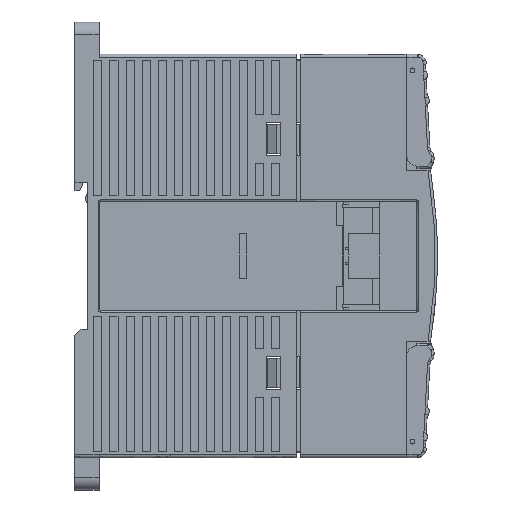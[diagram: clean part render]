
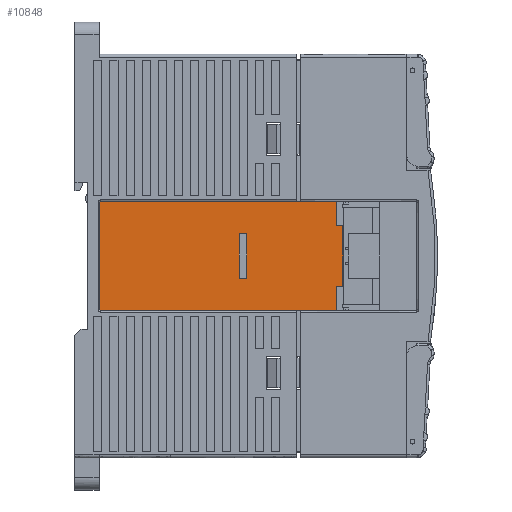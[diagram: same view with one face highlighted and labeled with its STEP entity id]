
A CAD part, left-side view. The second image highlights one B-rep face of the part: STEP entity #10848.
In plain terms, the highlighted planar face has unit normal (-1, 0, 0).
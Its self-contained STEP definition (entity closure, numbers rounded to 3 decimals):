
#10848=ADVANCED_FACE('',(#34902,#34904),#34906,.T.);
#34902=FACE_BOUND('',#34903,.T.);
#34903=EDGE_LOOP('',(#45462,#45463,#45464,#45465,#45466,#45467,#45468,#45469,#45470,
#45471));
#34904=FACE_BOUND('',#34905,.T.);
#34905=EDGE_LOOP('',(#45472,#45473,#45474,#45475));
#34906=PLANE('',#34907);
#34907=AXIS2_PLACEMENT_3D('',#34908,#34909,#34910);
#34908=CARTESIAN_POINT('',(-30.883,52.245,-18.371));
#34909=DIRECTION('',(-1.,0.,0.));
#34910=DIRECTION('',(0.,0.,1.));
#45462=ORIENTED_EDGE('',*,*,#51963,.T.);
#45463=ORIENTED_EDGE('',*,*,#51964,.T.);
#45464=ORIENTED_EDGE('',*,*,#51965,.T.);
#45465=ORIENTED_EDGE('',*,*,#51966,.T.);
#45466=ORIENTED_EDGE('',*,*,#51967,.T.);
#45467=ORIENTED_EDGE('',*,*,#51968,.T.);
#45468=ORIENTED_EDGE('',*,*,#51969,.T.);
#45469=ORIENTED_EDGE('',*,*,#51970,.T.);
#45470=ORIENTED_EDGE('',*,*,#51971,.T.);
#45471=ORIENTED_EDGE('',*,*,#51972,.T.);
#45472=ORIENTED_EDGE('',*,*,#51973,.T.);
#45473=ORIENTED_EDGE('',*,*,#51602,.F.);
#45474=ORIENTED_EDGE('',*,*,#51974,.T.);
#45475=ORIENTED_EDGE('',*,*,#51975,.T.);
#51602=EDGE_CURVE('',#59978,#59979,#59980,.T.);
#51963=EDGE_CURVE('',#60608,#60609,#60610,.T.);
#51964=EDGE_CURVE('',#60609,#60611,#60612,.T.);
#51965=EDGE_CURVE('',#60611,#60613,#60614,.T.);
#51966=EDGE_CURVE('',#60613,#60615,#60616,.T.);
#51967=EDGE_CURVE('',#60615,#60617,#60618,.T.);
#51968=EDGE_CURVE('',#60617,#60619,#60620,.T.);
#51969=EDGE_CURVE('',#60619,#60621,#60622,.T.);
#51970=EDGE_CURVE('',#60621,#60623,#60624,.T.);
#51971=EDGE_CURVE('',#60623,#60625,#60626,.T.);
#51972=EDGE_CURVE('',#60625,#60608,#60627,.T.);
#51973=EDGE_CURVE('',#60628,#59979,#60629,.T.);
#51974=EDGE_CURVE('',#59978,#60630,#60631,.T.);
#51975=EDGE_CURVE('',#60630,#60628,#60632,.T.);
#59978=VERTEX_POINT('',#96329);
#59979=VERTEX_POINT('',#96330);
#59980=LINE('',#96331,#96332);
#60608=VERTEX_POINT('',#97861);
#60609=VERTEX_POINT('',#97862);
#60610=LINE('',#97863,#97864);
#60611=VERTEX_POINT('',#97866);
#60612=(BOUNDED_CURVE()B_SPLINE_CURVE(2,
(#97867,#97868,#97869),
.UNSPECIFIED.,.F.,.F.)B_SPLINE_CURVE_WITH_KNOTS((3,3),
(0.,1.),
.UNSPECIFIED.)CURVE()GEOMETRIC_REPRESENTATION_ITEM()RATIONAL_B_SPLINE_CURVE((1.,
0.707,1.))REPRESENTATION_ITEM(''));
#60613=VERTEX_POINT('',#97870);
#60614=LINE('',#97871,#97872);
#60615=VERTEX_POINT('',#97874);
#60616=LINE('',#97875,#97876);
#60617=VERTEX_POINT('',#97878);
#60618=LINE('',#97879,#97880);
#60619=VERTEX_POINT('',#97882);
#60620=LINE('',#97883,#97884);
#60621=VERTEX_POINT('',#97886);
#60622=LINE('',#97887,#97888);
#60623=VERTEX_POINT('',#97890);
#60624=LINE('',#97891,#97892);
#60625=VERTEX_POINT('',#97894);
#60626=LINE('',#97895,#97896);
#60627=(BOUNDED_CURVE()B_SPLINE_CURVE(2,
(#97898,#97899,#97900),
.UNSPECIFIED.,.F.,.F.)B_SPLINE_CURVE_WITH_KNOTS((3,3),
(0.,1.),
.UNSPECIFIED.)CURVE()GEOMETRIC_REPRESENTATION_ITEM()RATIONAL_B_SPLINE_CURVE((1.,
0.707,1.))REPRESENTATION_ITEM(''));
#60628=VERTEX_POINT('',#97901);
#60629=LINE('',#97902,#97903);
#60630=VERTEX_POINT('',#97905);
#60631=LINE('',#97906,#97907);
#60632=LINE('',#97909,#97910);
#96329=CARTESIAN_POINT('',(-30.883,11.607,-7.662));
#96330=CARTESIAN_POINT('',(-30.883,9.807,-7.662));
#96331=CARTESIAN_POINT('',(-30.883,11.607,-7.662));
#96332=VECTOR('',#96333,1.);
#96333=DIRECTION('',(0.,-1.,0.));
#97861=CARTESIAN_POINT('',(-30.883,46.212,11.141));
#97862=CARTESIAN_POINT('',(-30.883,46.212,-15.459));
#97863=CARTESIAN_POINT('',(-30.883,46.212,11.141));
#97864=VECTOR('',#97865,1.);
#97865=DIRECTION('',(0.,0.,-1.));
#97866=CARTESIAN_POINT('',(-30.883,46.012,-15.659));
#97867=CARTESIAN_POINT('',(-30.883,46.212,-15.459));
#97868=CARTESIAN_POINT('',(-30.883,46.212,-15.659));
#97869=CARTESIAN_POINT('',(-30.883,46.012,-15.659));
#97870=CARTESIAN_POINT('',(-30.883,-12.393,-15.658));
#97871=CARTESIAN_POINT('',(-30.883,46.012,-15.658));
#97872=VECTOR('',#97873,1.);
#97873=DIRECTION('',(0.,-1.,0.));
#97874=CARTESIAN_POINT('',(-30.883,-12.393,-9.659));
#97875=CARTESIAN_POINT('',(-30.883,-12.393,-15.658));
#97876=VECTOR('',#97877,1.);
#97877=DIRECTION('',(0.,0.,1.));
#97878=CARTESIAN_POINT('',(-30.883,-13.993,-9.659));
#97879=CARTESIAN_POINT('',(-30.883,-12.393,-9.659));
#97880=VECTOR('',#97881,1.);
#97881=DIRECTION('',(0.,-1.,0.));
#97882=CARTESIAN_POINT('',(-30.883,-13.993,5.341));
#97883=CARTESIAN_POINT('',(-30.883,-13.993,-9.659));
#97884=VECTOR('',#97885,1.);
#97885=DIRECTION('',(0.,0.,1.));
#97886=CARTESIAN_POINT('',(-30.883,-12.393,5.341));
#97887=CARTESIAN_POINT('',(-30.883,-13.993,5.341));
#97888=VECTOR('',#97889,1.);
#97889=DIRECTION('',(0.,1.,0.));
#97890=CARTESIAN_POINT('',(-30.883,-12.393,11.341));
#97891=CARTESIAN_POINT('',(-30.883,-12.393,5.341));
#97892=VECTOR('',#97893,1.);
#97893=DIRECTION('',(0.,0.,1.));
#97894=CARTESIAN_POINT('',(-30.883,46.012,11.341));
#97895=CARTESIAN_POINT('',(-30.883,-12.393,11.341));
#97896=VECTOR('',#97897,1.);
#97897=DIRECTION('',(0.,1.,0.));
#97898=CARTESIAN_POINT('',(-30.883,46.012,11.341));
#97899=CARTESIAN_POINT('',(-30.883,46.212,11.341));
#97900=CARTESIAN_POINT('',(-30.883,46.212,11.141));
#97901=CARTESIAN_POINT('',(-30.883,9.807,3.338));
#97902=CARTESIAN_POINT('',(-30.883,9.807,3.338));
#97903=VECTOR('',#97904,1.);
#97904=DIRECTION('',(0.,0.,-1.));
#97905=CARTESIAN_POINT('',(-30.883,11.607,3.338));
#97906=CARTESIAN_POINT('',(-30.883,11.607,-7.662));
#97907=VECTOR('',#97908,1.);
#97908=DIRECTION('',(0.,0.,1.));
#97909=CARTESIAN_POINT('',(-30.883,11.607,3.338));
#97910=VECTOR('',#97911,1.);
#97911=DIRECTION('',(0.,-1.,0.));
